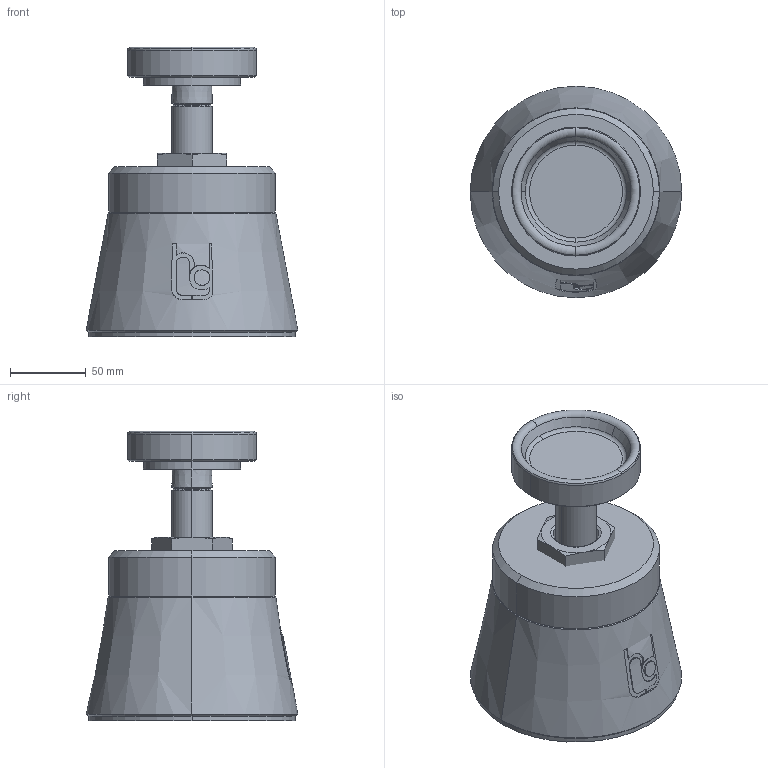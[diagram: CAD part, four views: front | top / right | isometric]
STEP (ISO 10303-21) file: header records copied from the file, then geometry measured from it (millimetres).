
FILE_DESCRIPTION(('STEP AP214'),'1');
FILE_NAME('RSRFS2-05-V0.stp','2018-07-02T06:29:12',(' '),(' '),'Spatial InterOp 3D',' ',' ');
FILE_SCHEMA(('automotive_design'));
Length unit declared in the file: millimetre
Products named in the file (6): 1; 2; 3; 4; 5; 6
Bounding box: 139.44 x 139.44 x 190.99 mm (x, y, z)
Volume: 1492429.6 mm3; surface area: 156907 mm2
Topology: 6 solids, 6 shells, 131 faces, 322 edges, 207 vertices
Faces by surface type: plane 50, cylinder 40, cone 31, torus 10
Entity records: 5598 total; most frequent: CARTESIAN_POINT 1301, DIRECTION 683, ORIENTED_EDGE 644, EDGE_CURVE 322, AXIS2_PLACEMENT_3D 273, VERTEX_POINT 207, STYLED_ITEM 137, PRESENTATION_STYLE_ASSIGNMENT 137
